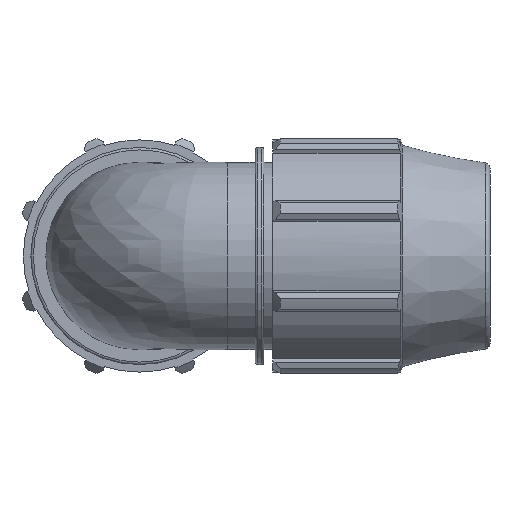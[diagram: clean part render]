
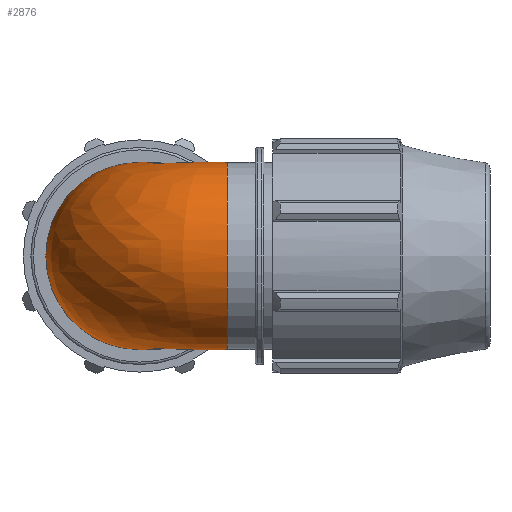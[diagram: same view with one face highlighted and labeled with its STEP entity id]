
A CAD part, front view. The second image highlights one B-rep face of the part: STEP entity #2876.
In plain terms, the highlighted free-form (B-spline) face has degree [2, 2] with [9, 3] control points.
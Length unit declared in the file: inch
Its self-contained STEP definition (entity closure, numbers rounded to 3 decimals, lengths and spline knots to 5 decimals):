
#560=(
BOUNDED_SURFACE()
B_SPLINE_SURFACE(2,2,((#4199,#4200,#4201),(#4202,#4203,#4204),(#4205,#4206,
#4207),(#4208,#4209,#4210),(#4211,#4212,#4213),(#4214,#4215,#4216),(#4217,
#4218,#4219),(#4220,#4221,#4222),(#4223,#4224,#4225)),.UNSPECIFIED.,.F.,
 .F.,.F.)
B_SPLINE_SURFACE_WITH_KNOTS((3,2,2,2,3),(3,3),(-2.79041,-1.39521,
0.,1.39521,2.79041),(-1.5708,0.),
 .UNSPECIFIED.)
GEOMETRIC_REPRESENTATION_ITEM()
RATIONAL_B_SPLINE_SURFACE(((1.,0.707,1.),(0.766,
0.542,0.766),(1.,0.707,1.),(0.766,
0.542,0.766),(1.,0.707,1.),(0.766,
0.542,0.766),(1.,0.707,1.),(0.766,
0.542,0.766),(1.,0.707,1.)))
REPRESENTATION_ITEM('')
SURFACE()
);
#583=FACE_OUTER_BOUND('',#733,.T.);
#733=EDGE_LOOP('',(#1794,#1795,#1796));
#897=CIRCLE('',#3053,0.79875);
#898=CIRCLE('',#3054,0.79875);
#899=CIRCLE('',#3055,0.79875);
#1056=VERTEX_POINT('',#4226);
#1057=VERTEX_POINT('',#4227);
#1058=VERTEX_POINT('',#4229);
#1355=EDGE_CURVE('',#1056,#1057,#897,.T.);
#1356=EDGE_CURVE('',#1058,#1056,#898,.T.);
#1357=EDGE_CURVE('',#1057,#1058,#899,.T.);
#1794=ORIENTED_EDGE('',*,*,#1355,.F.);
#1795=ORIENTED_EDGE('',*,*,#1356,.F.);
#1796=ORIENTED_EDGE('',*,*,#1357,.F.);
#2876=ADVANCED_FACE('',(#583),#560,.F.);
#3053=AXIS2_PLACEMENT_3D('',#4228,#3376,#3377);
#3054=AXIS2_PLACEMENT_3D('',#4230,#3378,#3379);
#3055=AXIS2_PLACEMENT_3D('',#4231,#3380,#3381);
#3376=DIRECTION('center_axis',(1.,0.,0.));
#3377=DIRECTION('ref_axis',(0.,0.,-1.));
#3378=DIRECTION('center_axis',(0.,1.,0.));
#3379=DIRECTION('ref_axis',(0.,0.,-1.));
#3380=DIRECTION('center_axis',(1.,0.,0.));
#3381=DIRECTION('ref_axis',(0.,0.,-1.));
#4199=CARTESIAN_POINT('Ctrl Pts',(0.75,0.75,0.27478));
#4200=CARTESIAN_POINT('Ctrl Pts',(0.75,0.75,0.27478));
#4201=CARTESIAN_POINT('Ctrl Pts',(0.75,0.75,0.27478));
#4202=CARTESIAN_POINT('Ctrl Pts',(0.75,0.51968,0.90342));
#4203=CARTESIAN_POINT('Ctrl Pts',(0.51968,0.51968,0.90342));
#4204=CARTESIAN_POINT('Ctrl Pts',(0.51968,0.75,0.90342));
#4205=CARTESIAN_POINT('Ctrl Pts',(0.75,-0.13953,0.78647));
#4206=CARTESIAN_POINT('Ctrl Pts',(-0.13953,-0.13953,
0.78647));
#4207=CARTESIAN_POINT('Ctrl Pts',(-0.13953,0.75,0.78647));
#4208=CARTESIAN_POINT('Ctrl Pts',(0.75,-0.79875,0.66951));
#4209=CARTESIAN_POINT('Ctrl Pts',(-0.79875,-0.79875,0.66951));
#4210=CARTESIAN_POINT('Ctrl Pts',(-0.79875,0.75,0.66951));
#4211=CARTESIAN_POINT('Ctrl Pts',(0.75,-0.79875,0.));
#4212=CARTESIAN_POINT('Ctrl Pts',(-0.79875,-0.79875,0.));
#4213=CARTESIAN_POINT('Ctrl Pts',(-0.79875,0.75,0.));
#4214=CARTESIAN_POINT('Ctrl Pts',(0.75,-0.79875,-0.66951));
#4215=CARTESIAN_POINT('Ctrl Pts',(-0.79875,-0.79875,-0.66951));
#4216=CARTESIAN_POINT('Ctrl Pts',(-0.79875,0.75,-0.66951));
#4217=CARTESIAN_POINT('Ctrl Pts',(0.75,-0.13953,-0.78647));
#4218=CARTESIAN_POINT('Ctrl Pts',(-0.13953,-0.13953,
-0.78647));
#4219=CARTESIAN_POINT('Ctrl Pts',(-0.13953,0.75,-0.78647));
#4220=CARTESIAN_POINT('Ctrl Pts',(0.75,0.51968,-0.90342));
#4221=CARTESIAN_POINT('Ctrl Pts',(0.51968,0.51968,-0.90342));
#4222=CARTESIAN_POINT('Ctrl Pts',(0.51968,0.75,-0.90342));
#4223=CARTESIAN_POINT('Ctrl Pts',(0.75,0.75,-0.27478));
#4224=CARTESIAN_POINT('Ctrl Pts',(0.75,0.75,-0.27478));
#4225=CARTESIAN_POINT('Ctrl Pts',(0.75,0.75,-0.27478));
#4226=CARTESIAN_POINT('',(0.75,0.75,0.27478));
#4227=CARTESIAN_POINT('',(0.75,-0.79875,0.));
#4228=CARTESIAN_POINT('Origin',(0.75,0.,0.));
#4229=CARTESIAN_POINT('',(0.75,0.75,-0.27478));
#4230=CARTESIAN_POINT('Origin',(0.,0.75,0.));
#4231=CARTESIAN_POINT('Origin',(0.75,0.,0.));
